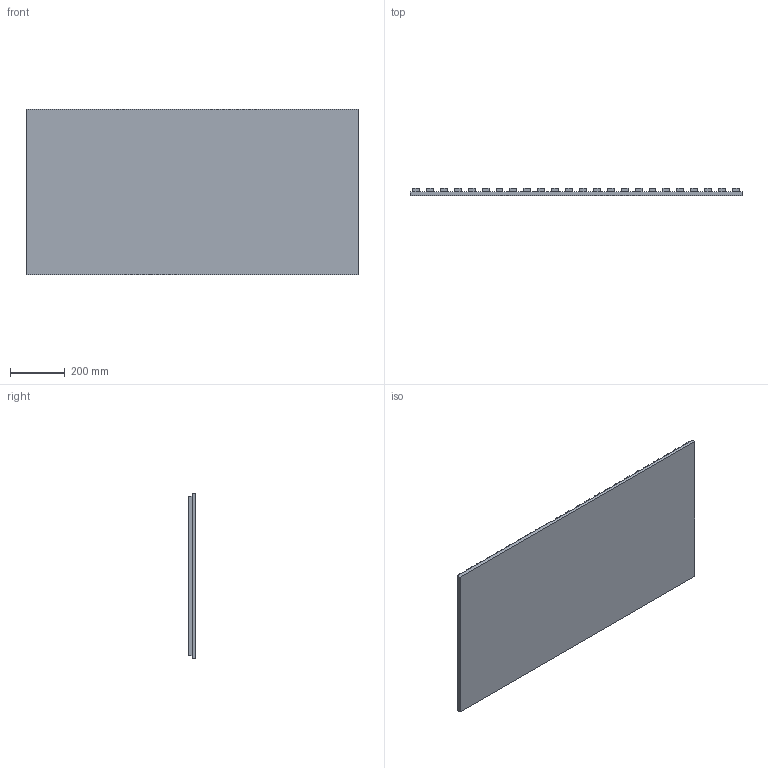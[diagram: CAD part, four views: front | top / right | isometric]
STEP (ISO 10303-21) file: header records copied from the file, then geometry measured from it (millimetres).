
FILE_DESCRIPTION(/* description */ (''),/* implementation_level */ '2;1');
FILE_NAME(/* name */ 'C:\Users\Grant Baker\Desktop\Projects\Slatta\Slatta_Tile_2x4_0.50_Lat.stp',/* time_stamp */ '2024-03-19T10:05:39-05:00',/* author */ ('Grant Baker'),/* organization */ (''),/* preprocessor_version */ 'ST-DEVELOPER v19',/* originating_system */ 'Autodesk Inventor 2023',/* authorisation */ '');
FILE_SCHEMA (('AUTOMOTIVE_DESIGN { 1 0 10303 214 3 1 1 }'));
Length unit declared in the file: inch
Products named in the file (3): Slatta_Tile_2x2_0.50; Slatta_Tile - Backer; Slatta_Tile - Slat
Assembly tree (25 placements, depth 2):
  Slatta_Tile_2x2_0.50
    Slatta_Tile - Backer
    Slatta_Tile - Slat  x24
Bounding box: 1212.85 x 25.4 x 603.25 mm (x, y, z)
Volume: 13814807 mm3; surface area: 2593301.3 mm2
Topology: 25 solids, 25 shells, 150 faces, 300 edges, 200 vertices
Faces by surface type: plane 150
Entity records: 601 total; most frequent: DIRECTION 104, CARTESIAN_POINT 80, ORIENTED_EDGE 48, AXIS2_PLACEMENT_3D 40, PRODUCT_DEFINITION_SHAPE 28, ITEM_DEFINED_TRANSFORMATION 25, CONTEXT_DEPENDENT_SHAPE_REPRESENTATION 25, NEXT_ASSEMBLY_USAGE_OCCURRENCE 25
